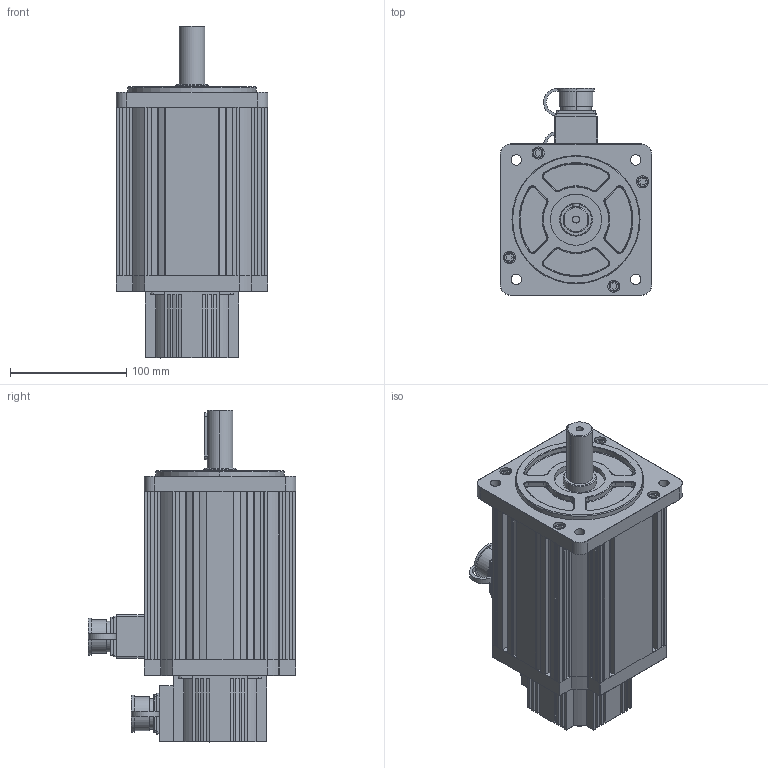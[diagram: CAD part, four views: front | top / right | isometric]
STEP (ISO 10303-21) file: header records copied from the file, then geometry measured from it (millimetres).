
FILE_DESCRIPTION (( 'STEP AP203' ), '1' );
FILE_NAME ('110-180系列伺服电机[130ST-M10015].STEP', '2020-07-04T00:30:39', ( '微软用户' ), ( '微软中国' ), 'SwSTEP 2.0', 'SolidWorks 2016', '' );
FILE_SCHEMA (( 'CONFIG_CONTROL_DESIGN' ));
Products named in the file (1): 110-180炵蹈侜督萇儂[130ST-M10015]
Bounding box: 130 x 178 x 285 mm (x, y, z)
Volume: 2919769.9 mm3; surface area: 196728.7 mm2
Topology: 1 solids, 1 shells, 2241 faces, 5719 edges, 3618 vertices
Faces by surface type: plane 1152, cylinder 517, bspline 370, torus 180, sphere 16, cone 6
Entity records: 83377 total; most frequent: CARTESIAN_POINT 31744, ORIENTED_EDGE 11406, DIRECTION 9378, EDGE_CURVE 5703, LINE 3830, VECTOR 3830, VERTEX_POINT 3618, AXIS2_PLACEMENT_3D 2774
